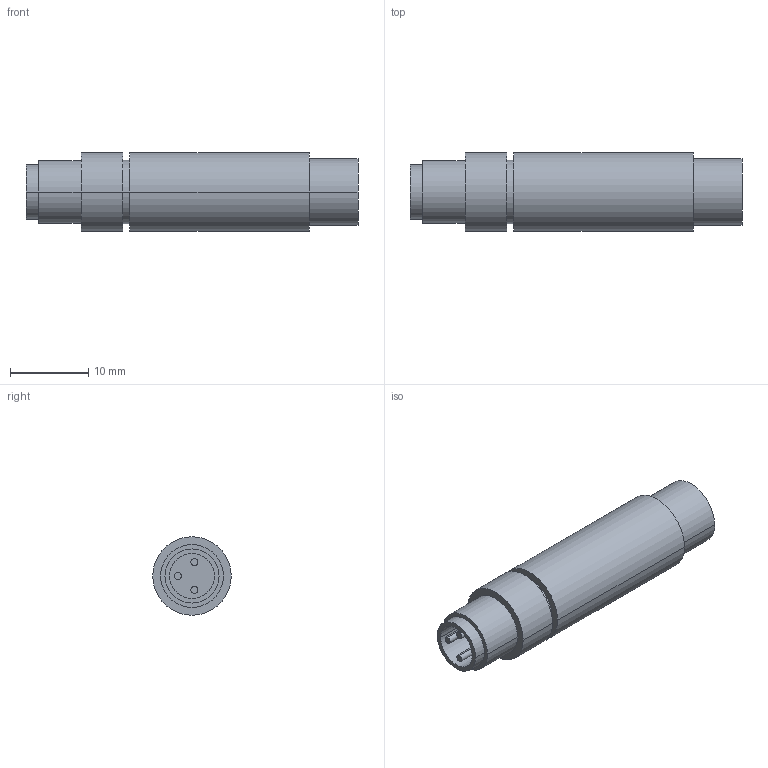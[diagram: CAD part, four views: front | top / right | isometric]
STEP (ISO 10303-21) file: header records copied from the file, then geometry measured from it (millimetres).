
FILE_DESCRIPTION(('STEP AP214'),'1');
FILE_NAME('pxptpu08fim.stp','2018-02-12T13:21:33',('TraceParts'),('TraceParts S.A.'),'Spatial InterOp 3D',' ',' ');
FILE_SCHEMA(('automotive_design'));
Length unit declared in the file: millimetre
Products named in the file (1): pxptpu08fim
Bounding box: 42.3 x 10 x 10 mm (x, y, z)
Volume: 2848.4 mm3; surface area: 1560.8 mm2
Topology: 1 solids, 1 shells, 31 faces, 60 edges, 40 vertices
Faces by surface type: cylinder 20, plane 11
Entity records: 829 total; most frequent: DIRECTION 164, CARTESIAN_POINT 132, ORIENTED_EDGE 120, AXIS2_PLACEMENT_3D 72, EDGE_CURVE 60, EDGE_LOOP 40, VERTEX_POINT 40, CIRCLE 40
